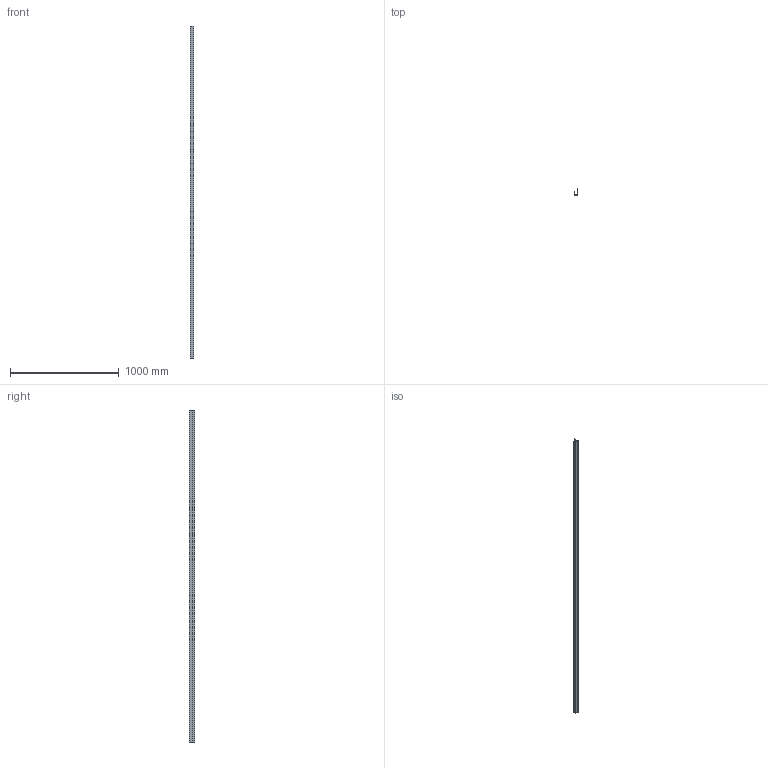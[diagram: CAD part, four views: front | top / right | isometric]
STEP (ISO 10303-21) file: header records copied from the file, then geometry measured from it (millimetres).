
FILE_DESCRIPTION(/* description */ (''),/* implementation_level */ '2;1');
FILE_NAME(/* name */ 'M07GP.stp',/* time_stamp */ '2024-05-14T14:03:56-04:00',/* author */ ('olivier.st-arneault'),/* organization */ (''),/* preprocessor_version */ 'ST-DEVELOPER v20',/* originating_system */ 'Autodesk Inventor 2024',/* authorisation */ '');
FILE_SCHEMA (('AUTOMOTIVE_DESIGN { 1 0 10303 214 3 1 1 }'));
Length unit declared in the file: inch
Products named in the file (3): Jclipsable Versa_Polymac - Assemblage; Jclipsable Versa_Polymac - Facade; Jclipsable Versa_Polymac - Vissage
Assembly tree (2 placements, depth 2):
  Jclipsable Versa_Polymac - Assemblage
    Jclipsable Versa_Polymac - Facade
    Jclipsable Versa_Polymac - Vissage
Bounding box: 29.21 x 51.81 x 3048 mm (x, y, z)
Volume: 318443 mm3; surface area: 1260115.1 mm2
Topology: 2 solids, 2 shells, 36 faces, 96 edges, 64 vertices
Faces by surface type: plane 24, cylinder 12
Entity records: 1243 total; most frequent: DIRECTION 204, CARTESIAN_POINT 202, ORIENTED_EDGE 192, EDGE_CURVE 96, LINE 72, VECTOR 72, AXIS2_PLACEMENT_3D 66, VERTEX_POINT 64
